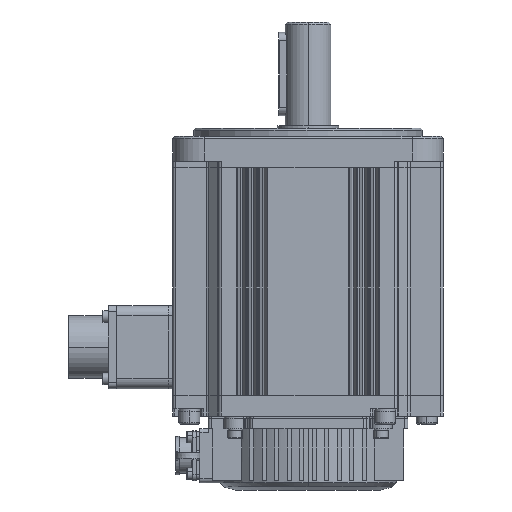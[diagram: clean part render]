
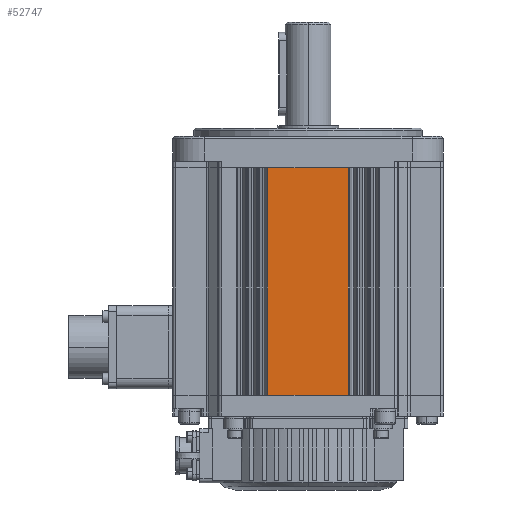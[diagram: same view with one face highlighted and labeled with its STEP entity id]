
A CAD part, front view. The second image highlights one B-rep face of the part: STEP entity #52747.
In plain terms, the highlighted planar face has unit normal (0, -1, 0).
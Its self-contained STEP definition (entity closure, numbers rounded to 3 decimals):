
#291 = EDGE_CURVE ( 'NONE', #29650, #46616, #56772, .T. ) ;
#5656 = ORIENTED_EDGE ( 'NONE', *, *, #291, .F. ) ;
#9256 = ORIENTED_EDGE ( 'NONE', *, *, #19518, .T. ) ;
#10328 = ORIENTED_EDGE ( 'NONE', *, *, #42323, .T. ) ;
#10682 = DIRECTION ( 'NONE',  ( 0., 1., 0. ) ) ;
#11373 = DIRECTION ( 'NONE',  ( -1., 0., 0. ) ) ;
#11387 = CARTESIAN_POINT ( 'NONE',  ( 19.307, -65., -54.75 ) ) ;
#11513 = VECTOR ( 'NONE', #51750, 1000. ) ;
#14005 = CARTESIAN_POINT ( 'NONE',  ( 0., -65., -54.75 ) ) ;
#14048 = LINE ( 'NONE', #25385, #26555 ) ;
#17379 = CARTESIAN_POINT ( 'NONE',  ( -19.307, -65., -54.75 ) ) ;
#19288 = DIRECTION ( 'NONE',  ( 0., 0., 1. ) ) ;
#19518 = EDGE_CURVE ( 'NONE', #53404, #51832, #49997, .T. ) ;
#25385 = CARTESIAN_POINT ( 'NONE',  ( 0., -65., 54.75 ) ) ;
#26555 = VECTOR ( 'NONE', #11373, 1000. ) ;
#28692 = CARTESIAN_POINT ( 'NONE',  ( -19.307, -65., 54.75 ) ) ;
#29650 = VERTEX_POINT ( 'NONE', #17379 ) ;
#33480 = CARTESIAN_POINT ( 'NONE',  ( 19.307, -65., 54.75 ) ) ;
#34086 = CARTESIAN_POINT ( 'NONE',  ( 19.307, -65., -54.75 ) ) ;
#38910 = PLANE ( 'NONE',  #42873 ) ;
#42323 = EDGE_CURVE ( 'NONE', #51832, #46616, #14048, .T. ) ;
#42873 = AXIS2_PLACEMENT_3D ( 'NONE', #57730, #10682, #43654 ) ;
#43654 = DIRECTION ( 'NONE',  ( 0., 0., 1. ) ) ;
#44202 = VECTOR ( 'NONE', #19288, 1000. ) ;
#46034 = ORIENTED_EDGE ( 'NONE', *, *, #52569, .F. ) ;
#46616 = VERTEX_POINT ( 'NONE', #28692 ) ;
#49153 = LINE ( 'NONE', #14005, #11513 ) ;
#49997 = LINE ( 'NONE', #11387, #51472 ) ;
#51472 = VECTOR ( 'NONE', #53871, 1000. ) ;
#51750 = DIRECTION ( 'NONE',  ( -1., 0., 0. ) ) ;
#51832 = VERTEX_POINT ( 'NONE', #33480 ) ;
#52569 = EDGE_CURVE ( 'NONE', #53404, #29650, #49153, .T. ) ;
#52747 = ADVANCED_FACE ( 'NONE', ( #55780 ), #38910, .F. ) ;
#53404 = VERTEX_POINT ( 'NONE', #34086 ) ;
#53534 = EDGE_LOOP ( 'NONE', ( #10328, #5656, #46034, #9256 ) ) ;
#53871 = DIRECTION ( 'NONE',  ( 0., 0., 1. ) ) ;
#55780 = FACE_OUTER_BOUND ( 'NONE', #53534, .T. ) ;
#56772 = LINE ( 'NONE', #56851, #44202 ) ;
#56851 = CARTESIAN_POINT ( 'NONE',  ( -19.307, -65., -54.75 ) ) ;
#57730 = CARTESIAN_POINT ( 'NONE',  ( 0., -65., -54.75 ) ) ;
